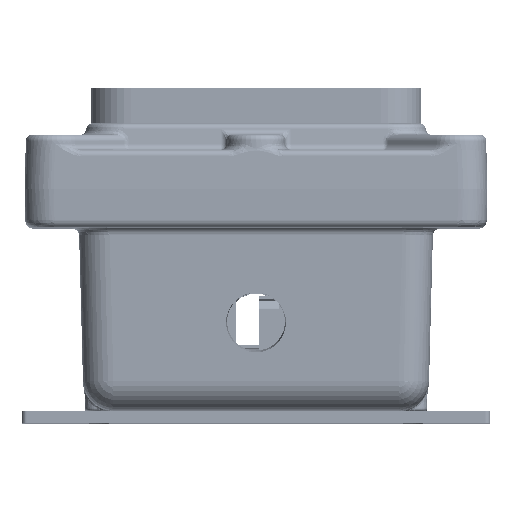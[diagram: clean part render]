
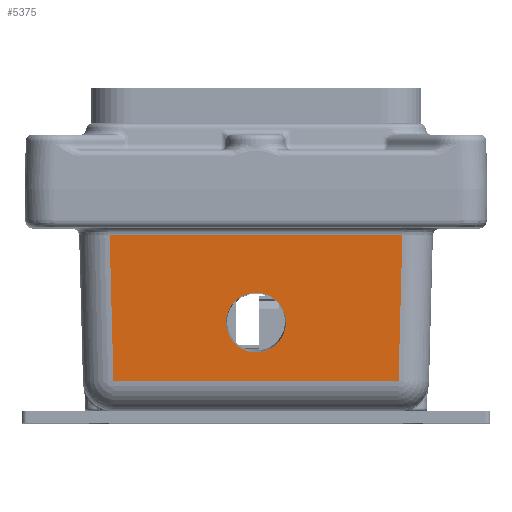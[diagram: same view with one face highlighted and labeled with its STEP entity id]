
A CAD part, top view. The second image highlights one B-rep face of the part: STEP entity #5375.
In plain terms, the highlighted planar face has unit normal (0, -0.026, 1).
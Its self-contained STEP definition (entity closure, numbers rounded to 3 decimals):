
#86=CARTESIAN_POINT('',(11.768,-52.318,118.638));
#87=VERTEX_POINT('',#86);
#88=CARTESIAN_POINT('',(0.,-52.318,118.638));
#89=DIRECTION('',(0.0,0.026,-1.));
#90=DIRECTION('',(1.0,0.0,0.0));
#91=AXIS2_PLACEMENT_3D('',#88,#89,#90);
#92=CIRCLE('',#91,11.768);
#93=EDGE_CURVE('',#87,#87,#92,.T.);
#2595=CARTESIAN_POINT('',(-57.543,-17.921,119.538));
#2596=VERTEX_POINT('',#2595);
#5335=CARTESIAN_POINT('',(69.615,-15.0,119.615));
#5336=DIRECTION('',(0.,-0.026,1.));
#5337=DIRECTION('',(1.0,0.0,0.0));
#5338=AXIS2_PLACEMENT_3D('',#5335,#5336,#5337);
#5339=PLANE('',#5338);
#5340=CARTESIAN_POINT('',(56.04,-75.314,118.036));
#5341=VERTEX_POINT('',#5340);
#5342=CARTESIAN_POINT('',(57.543,-17.921,119.538));
#5343=VERTEX_POINT('',#5342);
#5344=CARTESIAN_POINT('',(56.04,-75.314,118.036));
#5345=DIRECTION('',(0.026,0.999,0.026));
#5346=VECTOR('',#5345,57.432);
#5347=LINE('',#5344,#5346);
#5348=EDGE_CURVE('',#5341,#5343,#5347,.T.);
#5349=ORIENTED_EDGE('',*,*,#5348,.T.);
#5350=CARTESIAN_POINT('',(57.543,-17.921,119.538));
#5351=DIRECTION('',(-1.0,0.0,0.0));
#5352=VECTOR('',#5351,115.085);
#5353=LINE('',#5350,#5352);
#5354=EDGE_CURVE('',#5343,#2596,#5353,.T.);
#5355=ORIENTED_EDGE('',*,*,#5354,.T.);
#5356=CARTESIAN_POINT('',(-56.04,-75.314,118.036));
#5357=VERTEX_POINT('',#5356);
#5358=CARTESIAN_POINT('',(-57.543,-17.921,119.538));
#5359=DIRECTION('',(0.026,-0.999,-0.026));
#5360=VECTOR('',#5359,57.432);
#5361=LINE('',#5358,#5360);
#5362=EDGE_CURVE('',#2596,#5357,#5361,.T.);
#5363=ORIENTED_EDGE('',*,*,#5362,.T.);
#5364=CARTESIAN_POINT('',(-56.04,-75.314,118.036));
#5365=DIRECTION('',(1.0,0.0,0.0));
#5366=VECTOR('',#5365,112.079);
#5367=LINE('',#5364,#5366);
#5368=EDGE_CURVE('',#5357,#5341,#5367,.T.);
#5369=ORIENTED_EDGE('',*,*,#5368,.T.);
#5370=EDGE_LOOP('',(#5349,#5355,#5363,#5369));
#5371=FACE_OUTER_BOUND('',#5370,.T.);
#5372=ORIENTED_EDGE('',*,*,#93,.T.);
#5373=EDGE_LOOP('',(#5372));
#5374=FACE_BOUND('',#5373,.T.);
#5375=ADVANCED_FACE('',(#5371,#5374),#5339,.T.);
